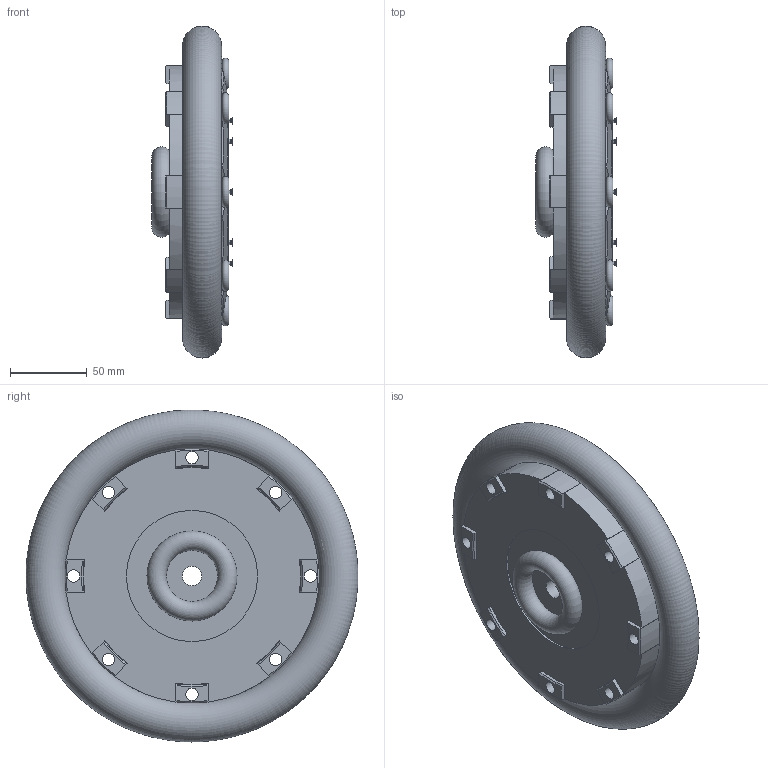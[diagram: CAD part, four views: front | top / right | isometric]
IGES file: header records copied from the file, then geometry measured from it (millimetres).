
Start section: C
Global section: file name: TILTON 6552HSG-S.igs; native system: By Siemens PLM Incorporated; preprocessor: XPlus GENERIC/IGES 16.0.42; author: Author; organization: Title; date: 20150129.152520; units: inch
Bounding box: 52.38 x 216.71 x 216.73 mm (x, y, z)
Surface area: 518930 mm2 (no closed solid volume)
Topology: 0 solids, 9 shells, 821 faces, 2408 edges, 1596 vertices
Faces by surface type: cylinder 403, plane 349, torus 35, cone 34
Full cylindrical faces by diameter (mm): 0.508 x8, 4.902 x8, 8.077 x8, 9.169 x8, 12.7 x1, 71.095 x1, 85.674 x1, 87.376 x1, 142.697 x1
